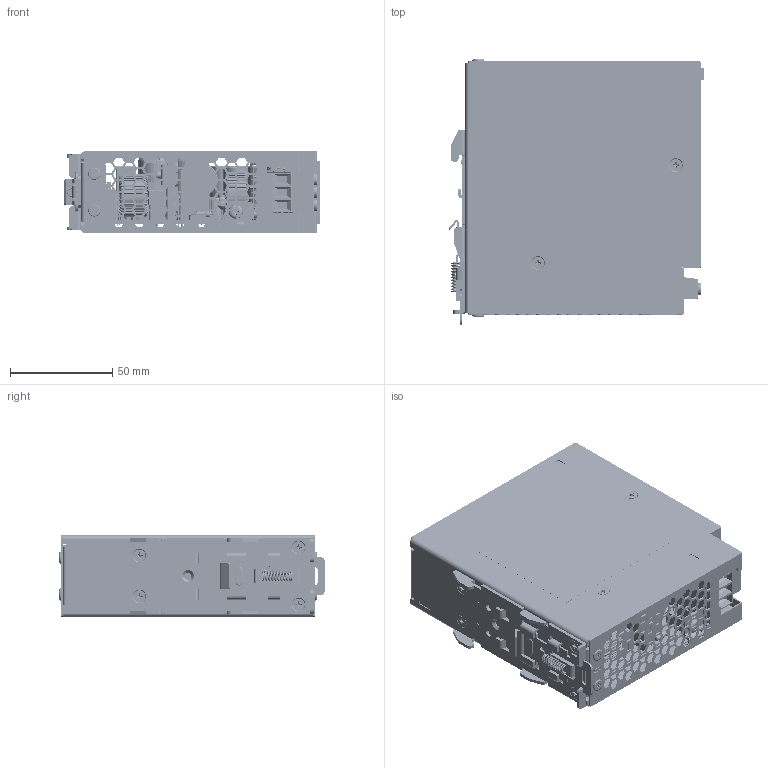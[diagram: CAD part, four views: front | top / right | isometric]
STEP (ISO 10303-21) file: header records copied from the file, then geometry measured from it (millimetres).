
FILE_DESCRIPTION((''),'2;1');
FILE_NAME('DRM-24V120W1PN_ASM','2015-05-18T',('chaiyuth.aimy'),(''),'PRO/ENGINEER BY PARAMETRIC TECHNOLOGY CORPORATION, 2010180','PRO/ENGINEER BY PARAMETRIC TECHNOLOGY CORPORATION, 2010180','');
FILE_SCHEMA(('CONFIG_CONTROL_DESIGN','SHAPE_APPEARANCE_LAYERS_GROUPS'));
Products named in the file (119): 330322440000_CASE-CHASSIS; 326820910000; 346654410203; 346008810000; 346202620000; ASSY_BASE_NEW_V2_ASM; MAINBOARD_V3_AF0; 346142640000; LAYOUT_UPDATE; EE_LED_2301421631_GREEN; 3352085700; RES_VR-2; 3470401800; EE_FL2-2; EE_C804; EE_FL1-2; EE_L802-2; EE_C803-2; EE_L801-2; EE_R50-2; EE_C350-2; EE-Q350-5; EE_T1_BOBBIN; EE_T1_CORE; EE_T1_WIRE; EE_C351-2; EE_T1_ASM; EE_C352-2; 334723920000; EE_Q801-2; 3245079400; EE_D801-2; EE_Q1-2; 3100001400-1; EE_Q50-2; 324241170000_INSULATOR_HSK1; 3460405500; TUBE_CLIP; ASSY_HS1_ASM; OUTPUT_DC-BOARD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
Assembly tree (159 placements, depth 6):
  DRM-24V120W1PN_ASM
    330322440000_CASE-CHASSIS
    326820910000
    ASSY_BASE_NEW_V2_ASM
      346654410203
      346008810000
      346202620000
    ASSY_MAINBOARD_ASM
      MAINBOARD_V3_AF0
      346142640000
      LAYOUT_UPDATE
      EE_LED_2301421631_GREEN  x2
      3352085700
      RES_VR-2
      3470401800  x2
      EE_FL2-2
      EE_C804
      EE_FL1-2
      EE_L802-2
      EE_C803-2
      EE_L801-2
      EE_R50-2
      EE_C350-2
      EE-Q350-5
      EE_T1_ASM
        EE_T1_BOBBIN
        EE_T1_CORE  x2
        EE_T1_WIRE
        EE_C351-2
      EE_C352-2
      ASSY_HS1_ASM
        334723920000
        EE_Q801-2
        3245079400  x4
        EE_D801-2
        EE_Q1-2
        3100001400-1  x2
        EE_Q50-2
        324241170000_INSULATOR_HSK1  x2
        3460405500  x2
        TUBE_CLIP  x4
      OUTPUT_DC-BOARD_ASM
        OUTPUT_DC-BOARD
        DCT-1994
        C353_140152211467
        L350_2875316500
        EE_Z3  x2
        MB420-508MA02_ASM
          ASSEM1_ASM  x3
            BMB420-508MA02
            BMB420U103
            BMB420P201
        3350940600_1
        324241020000_INSULATOR_DCT1995
        3429511200  x2
        EE_RL750_HF32A
      DC_INPUT-BOARD_ASM
        INPUT_DCT-1994
        DCT-1859_LAYOUT
        0805A40602_F1
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Bounding box: 125.14 x 130 x 40.08 mm (x, y, z)
Volume: 247065.6 mm3; surface area: 338147.2 mm2
Topology: 171 solids, 171 shells, 12802 faces, 33534 edges, 20910 vertices
Faces by surface type: plane 6617, cylinder 3147, torus 1144, extrusion 1003, bspline 554, cone 168, sphere 153, revolution 16
Entity records: 442936 total; most frequent: CARTESIAN_POINT 118594, ORIENTED_EDGE 53040, DIRECTION 47904, EDGE_CURVE 26520, PRESENTATION_STYLE_ASSIGNMENT 22435, STYLED_ITEM 21739, CURVE_STYLE 21098, VECTOR 17178
